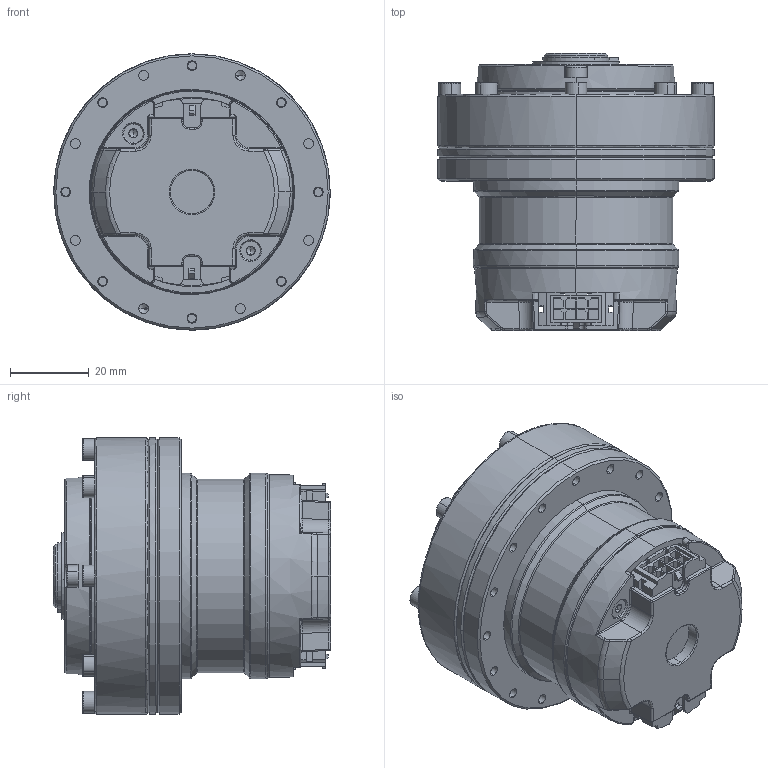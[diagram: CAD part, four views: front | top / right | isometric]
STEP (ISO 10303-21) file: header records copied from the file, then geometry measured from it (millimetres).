
FILE_DESCRIPTION (( 'STEP AP214' ), '1' );
FILE_NAME ('QDD_Pro-3510-80-70_v2_2.STEP', '2019-05-07T10:46:57', ( 'Microsoft' ), ( 'Microsoft' ), 'SwSTEP 2.0', 'SolidWorks 2018', '' );
FILE_SCHEMA (( 'AUTOMOTIVE_DESIGN' ));
Length unit declared in the file: millimetre
Products named in the file (1): QDD_Pro-3510-80-70_v2_2
Bounding box: 70 x 70.23 x 70 mm (x, y, z)
Volume: 133743.5 mm3; surface area: 84776.9 mm2
Topology: 117 solids, 117 shells, 2588 faces, 6098 edges, 3778 vertices
Faces by surface type: plane 1356, cylinder 615, cone 380, bspline 152, torus 80, sphere 5
Entity records: 115341 total; most frequent: CARTESIAN_POINT 28883, ORIENTED_EDGE 12072, DIRECTION 10793, EDGE_CURVE 6036, VERTEX_POINT 3778, VECTOR 3651, LINE 3651, AXIS2_PLACEMENT_3D 3571
